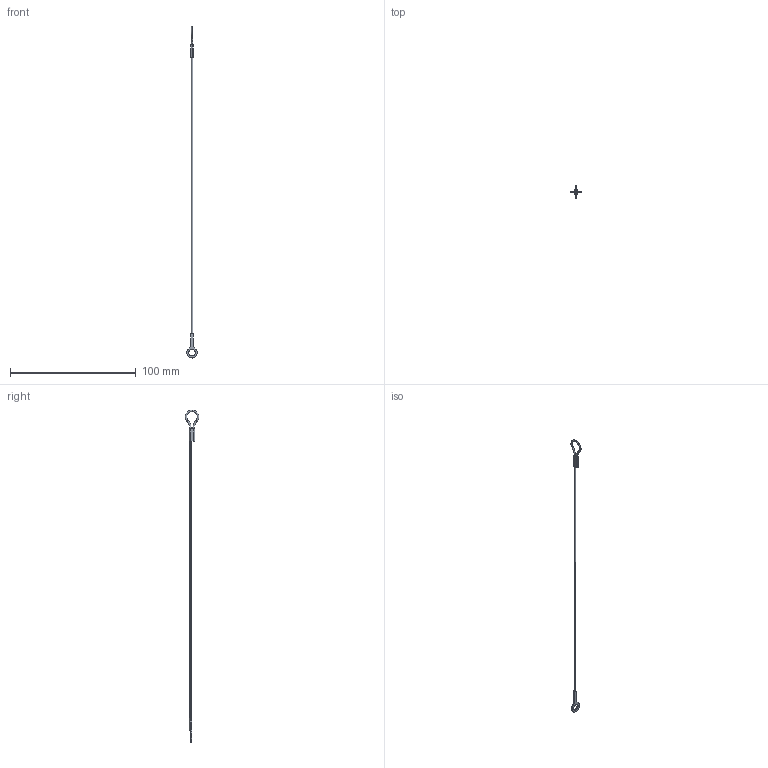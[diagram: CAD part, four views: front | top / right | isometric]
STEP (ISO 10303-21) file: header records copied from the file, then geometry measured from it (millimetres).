
FILE_DESCRIPTION (( 'STEP AP203' ), '1' );
FILE_NAME ('LA1075.I04-254N1.step', '2026-03-23T16:42:12', ( '' ), ( '' ), 'SwSTEP 2.0', 'SolidWorks 2019', '' );
FILE_SCHEMA (( 'CONFIG_CONTROL_DESIGN' ));
Length unit declared in the file: millimetre
Products named in the file (1): LA1075.I04-254N1
Bounding box: 8.36 x 10.76 x 263.58 mm (x, y, z)
Volume: 435.3 mm3; surface area: 1267.6 mm2
Topology: 1 solids, 1 shells, 30 faces, 68 edges, 42 vertices
Faces by surface type: plane 12, cylinder 10, torus 8
Entity records: 935 total; most frequent: DIRECTION 168, CARTESIAN_POINT 141, ORIENTED_EDGE 136, AXIS2_PLACEMENT_3D 69, EDGE_CURVE 68, VERTEX_POINT 42, CIRCLE 38, EDGE_LOOP 36
